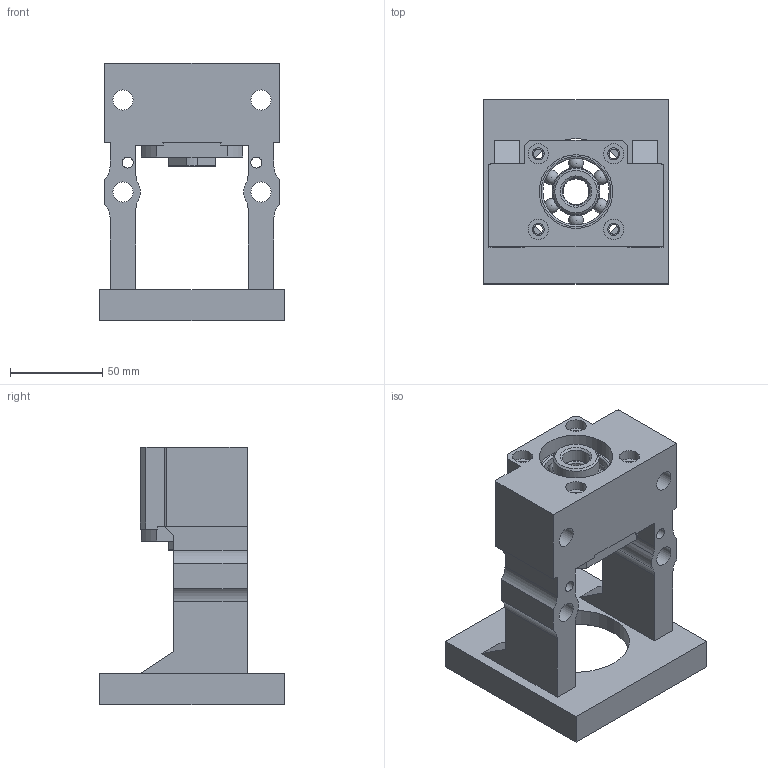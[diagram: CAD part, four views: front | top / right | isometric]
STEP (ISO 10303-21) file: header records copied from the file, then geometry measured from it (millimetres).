
FILE_DESCRIPTION(/* description */ (''),/* implementation_level */ '2;1');
FILE_NAME(/* name */ 'M90X-AK15-C.stp',/* time_stamp */ '2017-07-03T18:19:07+08:00',/* author */ (''),/* organization */ (''),/* preprocessor_version */ 'ST-DEVELOPER v15',/* originating_system */ 'SIEMENS PLM Software NX 9.0',/* authorisation */ '');
FILE_SCHEMA (('CONFIG_CONTROL_DESIGN'));
Length unit declared in the file: millimetre
Products named in the file (5): MBCE15-D_3; MBCS15-X-03; MBCS15-X-02; 15TAC; MBCS15-X
Assembly tree (6 placements, depth 2):
  MBCS15-X
    15TAC  x2
    MBCS15-X-02
    MBCS15-X-03  x2
    MBCE15-D_3
Bounding box: 100 x 100 x 140 mm (x, y, z)
Volume: 374758.6 mm3; surface area: 111189.6 mm2
Topology: 22 solids, 22 shells, 275 faces, 675 edges, 432 vertices
Faces by surface type: plane 105, cylinder 91, cone 39, torus 20, sphere 12, bspline 8
Full cylindrical faces by diameter (mm): 3.4 x2, 5.2 x8, 6 x2, 6.6 x6, 11 x8, 14 x1, 15 x4, 17 x4, 19.5 x1, 25 x2, 26 x4, 36 x4, 40 x2, 47 x4, 58 x1, 80 x1
Entity records: 8234 total; most frequent: CARTESIAN_POINT 2336, DIRECTION 1104, ORIENTED_EDGE 966, EDGE_CURVE 483, AXIS2_PLACEMENT_3D 440, EDGE_LOOP 369, VERTEX_POINT 352, FACE_BOUND 251
